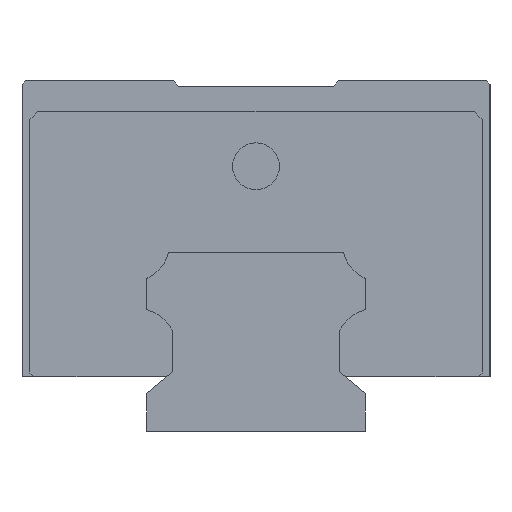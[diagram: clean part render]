
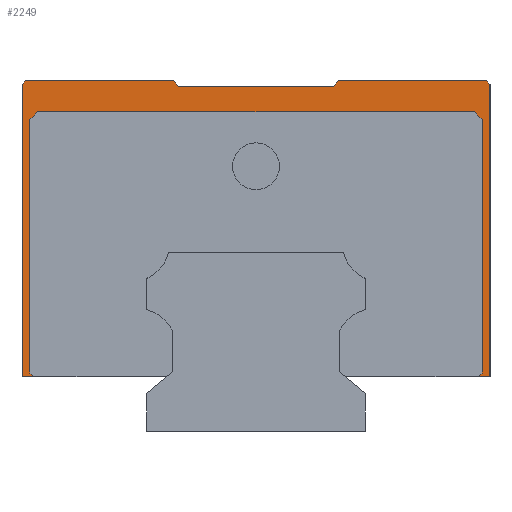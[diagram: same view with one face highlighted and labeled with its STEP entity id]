
A CAD part, left-side view. The second image highlights one B-rep face of the part: STEP entity #2249.
In plain terms, the highlighted planar face has unit normal (-1, 0, 0).
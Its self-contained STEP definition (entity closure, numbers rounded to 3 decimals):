
#4 = VECTOR ( 'NONE', #5761, 1000. ) ;
#59 = CARTESIAN_POINT ( 'NONE',  ( -52.5, -10.629, 45. ) ) ;
#129 = VECTOR ( 'NONE', #2593, 1000. ) ;
#165 = EDGE_CURVE ( 'NONE', #5274, #3348, #1384, .T. ) ;
#212 = CARTESIAN_POINT ( 'NONE',  ( -52.5, -29., 7.5 ) ) ;
#321 = DIRECTION ( 'NONE',  ( 0., 0.707, 0.707 ) ) ;
#397 = EDGE_CURVE ( 'NONE', #4996, #1627, #2617, .T. ) ;
#398 = DIRECTION ( 'NONE',  ( 0., 0.707, -0.707 ) ) ;
#468 = CARTESIAN_POINT ( 'NONE',  ( -52.5, -28., 41. ) ) ;
#476 = ORIENTED_EDGE ( 'NONE', *, *, #2155, .T. ) ;
#493 = LINE ( 'NONE', #5309, #4370 ) ;
#537 = EDGE_CURVE ( 'NONE', #3582, #1275, #4919, .T. ) ;
#638 = LINE ( 'NONE', #5567, #1950 ) ;
#639 = CARTESIAN_POINT ( 'NONE',  ( -52.5, -29., 40. ) ) ;
#748 = ORIENTED_EDGE ( 'NONE', *, *, #5253, .F. ) ;
#763 = VECTOR ( 'NONE', #3172, 1000. ) ;
#813 = EDGE_CURVE ( 'NONE', #4191, #3672, #1843, .T. ) ;
#815 = CARTESIAN_POINT ( 'NONE',  ( -52.5, -30., 44.5 ) ) ;
#854 = DIRECTION ( 'NONE',  ( 0., 1., 0. ) ) ;
#884 = EDGE_CURVE ( 'NONE', #1485, #4996, #2687, .T. ) ;
#894 = ORIENTED_EDGE ( 'NONE', *, *, #1761, .F. ) ;
#979 = CARTESIAN_POINT ( 'NONE',  ( -52.5, 10.629, 45. ) ) ;
#984 = EDGE_CURVE ( 'NONE', #3348, #4013, #4551, .T. ) ;
#997 = DIRECTION ( 'NONE',  ( 0., 0.643, -0.766 ) ) ;
#1160 = EDGE_CURVE ( 'NONE', #5090, #4617, #3426, .T. ) ;
#1182 = LINE ( 'NONE', #2968, #129 ) ;
#1248 = VECTOR ( 'NONE', #2237, 1000. ) ;
#1275 = VERTEX_POINT ( 'NONE', #4814 ) ;
#1317 = ORIENTED_EDGE ( 'NONE', *, *, #813, .T. ) ;
#1384 = LINE ( 'NONE', #3166, #2475 ) ;
#1419 = DIRECTION ( 'NONE',  ( 0., -0.707, -0.707 ) ) ;
#1422 = CARTESIAN_POINT ( 'NONE',  ( -52.5, -10.629, 45. ) ) ;
#1450 = VECTOR ( 'NONE', #2585, 1000. ) ;
#1484 = ORIENTED_EDGE ( 'NONE', *, *, #4854, .T. ) ;
#1485 = VERTEX_POINT ( 'NONE', #2817 ) ;
#1544 = DIRECTION ( 'NONE',  ( 0., 0.707, -0.707 ) ) ;
#1627 = VERTEX_POINT ( 'NONE', #3861 ) ;
#1683 = LINE ( 'NONE', #4302, #4502 ) ;
#1704 = LINE ( 'NONE', #815, #1450 ) ;
#1761 = EDGE_CURVE ( 'NONE', #5090, #4880, #1796, .T. ) ;
#1770 = CARTESIAN_POINT ( 'NONE',  ( -52.5, -30., 7. ) ) ;
#1776 = CARTESIAN_POINT ( 'NONE',  ( -52.5, -30., 7. ) ) ;
#1784 = CARTESIAN_POINT ( 'NONE',  ( -52.5, -30., 45. ) ) ;
#1796 = LINE ( 'NONE', #3558, #3333 ) ;
#1817 = DIRECTION ( 'NONE',  ( 0., 1., 0. ) ) ;
#1843 = LINE ( 'NONE', #4459, #3850 ) ;
#1950 = VECTOR ( 'NONE', #2440, 1000. ) ;
#1996 = CARTESIAN_POINT ( 'NONE',  ( -52.5, 28.5, 7. ) ) ;
#2002 = VECTOR ( 'NONE', #1544, 1000. ) ;
#2043 = CARTESIAN_POINT ( 'NONE',  ( -52.5, 28.5, 7. ) ) ;
#2078 = ORIENTED_EDGE ( 'NONE', *, *, #1160, .T. ) ;
#2120 = ORIENTED_EDGE ( 'NONE', *, *, #884, .F. ) ;
#2155 = EDGE_CURVE ( 'NONE', #4617, #5294, #4002, .T. ) ;
#2237 = DIRECTION ( 'NONE',  ( 0., 1., 0. ) ) ;
#2249 = ADVANCED_FACE ( 'NONE', ( #2374 ), #3179, .F. ) ;
#2346 = CARTESIAN_POINT ( 'NONE',  ( -52.5, -28., 41. ) ) ;
#2353 = VERTEX_POINT ( 'NONE', #212 ) ;
#2374 = FACE_OUTER_BOUND ( 'NONE', #2885, .T. ) ;
#2375 = ORIENTED_EDGE ( 'NONE', *, *, #5258, .T. ) ;
#2418 = CARTESIAN_POINT ( 'NONE',  ( -52.5, 29.5, 45. ) ) ;
#2440 = DIRECTION ( 'NONE',  ( 0., 0., -1. ) ) ;
#2475 = VECTOR ( 'NONE', #4957, 1000. ) ;
#2564 = VECTOR ( 'NONE', #398, 1000. ) ;
#2576 = ORIENTED_EDGE ( 'NONE', *, *, #537, .T. ) ;
#2585 = DIRECTION ( 'NONE',  ( 0., 0.707, 0.707 ) ) ;
#2593 = DIRECTION ( 'NONE',  ( 0., -0.707, 0.707 ) ) ;
#2605 = CARTESIAN_POINT ( 'NONE',  ( -52.5, 29., 7.5 ) ) ;
#2611 = EDGE_CURVE ( 'NONE', #3026, #4295, #493, .T. ) ;
#2617 = LINE ( 'NONE', #1770, #1248 ) ;
#2628 = ORIENTED_EDGE ( 'NONE', *, *, #397, .F. ) ;
#2664 = EDGE_CURVE ( 'NONE', #4013, #2353, #638, .T. ) ;
#2669 = CARTESIAN_POINT ( 'NONE',  ( -52.5, -29.5, 45. ) ) ;
#2687 = LINE ( 'NONE', #1784, #763 ) ;
#2695 = CARTESIAN_POINT ( 'NONE',  ( -52.5, -30., 45. ) ) ;
#2697 = VECTOR ( 'NONE', #321, 1000. ) ;
#2747 = ORIENTED_EDGE ( 'NONE', *, *, #984, .T. ) ;
#2817 = CARTESIAN_POINT ( 'NONE',  ( -52.5, -30., 44.5 ) ) ;
#2885 = EDGE_LOOP ( 'NONE', ( #894, #2078, #476, #1484, #4694, #2747, #4757, #3216, #2628, #2120, #2375, #5729, #3375, #1317, #2918, #4969, #2576, #748 ) ) ;
#2918 = ORIENTED_EDGE ( 'NONE', *, *, #3697, .T. ) ;
#2968 = CARTESIAN_POINT ( 'NONE',  ( -52.5, 29., 40. ) ) ;
#3026 = VERTEX_POINT ( 'NONE', #1422 ) ;
#3051 = CARTESIAN_POINT ( 'NONE',  ( -52.5, 10., 44.25 ) ) ;
#3064 = VECTOR ( 'NONE', #1419, 1000. ) ;
#3092 = CARTESIAN_POINT ( 'NONE',  ( -52.5, -29., 7.5 ) ) ;
#3162 = DIRECTION ( 'NONE',  ( 0., -1., 0. ) ) ;
#3166 = CARTESIAN_POINT ( 'NONE',  ( -52.5, 28., 41. ) ) ;
#3172 = DIRECTION ( 'NONE',  ( 0., 0., -1. ) ) ;
#3179 = PLANE ( 'NONE',  #5698 ) ;
#3216 = ORIENTED_EDGE ( 'NONE', *, *, #4247, .T. ) ;
#3321 = CARTESIAN_POINT ( 'NONE',  ( -52.5, 29.5, 45. ) ) ;
#3333 = VECTOR ( 'NONE', #5359, 1000. ) ;
#3348 = VERTEX_POINT ( 'NONE', #468 ) ;
#3360 = CARTESIAN_POINT ( 'NONE',  ( -52.5, -10., 44.25 ) ) ;
#3375 = ORIENTED_EDGE ( 'NONE', *, *, #3454, .T. ) ;
#3426 = LINE ( 'NONE', #2043, #2697 ) ;
#3454 = EDGE_CURVE ( 'NONE', #3026, #4191, #5017, .T. ) ;
#3558 = CARTESIAN_POINT ( 'NONE',  ( -52.5, 11.769, 7. ) ) ;
#3582 = VERTEX_POINT ( 'NONE', #2418 ) ;
#3672 = VERTEX_POINT ( 'NONE', #5248 ) ;
#3697 = EDGE_CURVE ( 'NONE', #3672, #4816, #4337, .T. ) ;
#3738 = EDGE_CURVE ( 'NONE', #3582, #4816, #1683, .T. ) ;
#3850 = VECTOR ( 'NONE', #854, 1000. ) ;
#3861 = CARTESIAN_POINT ( 'NONE',  ( -52.5, -28.5, 7. ) ) ;
#3886 = CARTESIAN_POINT ( 'NONE',  ( -52.5, 29., 40. ) ) ;
#4002 = LINE ( 'NONE', #5327, #4462 ) ;
#4013 = VERTEX_POINT ( 'NONE', #639 ) ;
#4191 = VERTEX_POINT ( 'NONE', #3360 ) ;
#4247 = EDGE_CURVE ( 'NONE', #2353, #1627, #5303, .T. ) ;
#4295 = VERTEX_POINT ( 'NONE', #2669 ) ;
#4297 = DIRECTION ( 'NONE',  ( 0., 0., 1. ) ) ;
#4302 = CARTESIAN_POINT ( 'NONE',  ( -52.5, 30., 45. ) ) ;
#4337 = LINE ( 'NONE', #3051, #4 ) ;
#4358 = CARTESIAN_POINT ( 'NONE',  ( -52.5, 28., 41. ) ) ;
#4370 = VECTOR ( 'NONE', #3162, 1000. ) ;
#4459 = CARTESIAN_POINT ( 'NONE',  ( -52.5, -10., 44.25 ) ) ;
#4462 = VECTOR ( 'NONE', #5266, 1000. ) ;
#4502 = VECTOR ( 'NONE', #5638, 1000. ) ;
#4551 = LINE ( 'NONE', #2346, #3064 ) ;
#4617 = VERTEX_POINT ( 'NONE', #2605 ) ;
#4694 = ORIENTED_EDGE ( 'NONE', *, *, #165, .T. ) ;
#4757 = ORIENTED_EDGE ( 'NONE', *, *, #2664, .T. ) ;
#4814 = CARTESIAN_POINT ( 'NONE',  ( -52.5, 30., 44.5 ) ) ;
#4816 = VERTEX_POINT ( 'NONE', #979 ) ;
#4854 = EDGE_CURVE ( 'NONE', #5294, #5274, #1182, .T. ) ;
#4880 = VERTEX_POINT ( 'NONE', #5672 ) ;
#4885 = VECTOR ( 'NONE', #997, 1000. ) ;
#4919 = LINE ( 'NONE', #3321, #2002 ) ;
#4957 = DIRECTION ( 'NONE',  ( 0., -1., 0. ) ) ;
#4969 = ORIENTED_EDGE ( 'NONE', *, *, #3738, .F. ) ;
#4996 = VERTEX_POINT ( 'NONE', #1776 ) ;
#5017 = LINE ( 'NONE', #59, #4885 ) ;
#5090 = VERTEX_POINT ( 'NONE', #1996 ) ;
#5248 = CARTESIAN_POINT ( 'NONE',  ( -52.5, 10., 44.25 ) ) ;
#5253 = EDGE_CURVE ( 'NONE', #4880, #1275, #5632, .T. ) ;
#5258 = EDGE_CURVE ( 'NONE', #1485, #4295, #1704, .T. ) ;
#5266 = DIRECTION ( 'NONE',  ( 0., 0., 1. ) ) ;
#5274 = VERTEX_POINT ( 'NONE', #4358 ) ;
#5294 = VERTEX_POINT ( 'NONE', #3886 ) ;
#5303 = LINE ( 'NONE', #3092, #2564 ) ;
#5309 = CARTESIAN_POINT ( 'NONE',  ( -52.5, 30., 45. ) ) ;
#5327 = CARTESIAN_POINT ( 'NONE',  ( -52.5, 29., 7.5 ) ) ;
#5359 = DIRECTION ( 'NONE',  ( 0., 1., 0. ) ) ;
#5443 = DIRECTION ( 'NONE',  ( 1., 0., 0. ) ) ;
#5479 = VECTOR ( 'NONE', #4297, 1000. ) ;
#5567 = CARTESIAN_POINT ( 'NONE',  ( -52.5, -29., 40. ) ) ;
#5632 = LINE ( 'NONE', #5718, #5479 ) ;
#5638 = DIRECTION ( 'NONE',  ( 0., -1., 0. ) ) ;
#5672 = CARTESIAN_POINT ( 'NONE',  ( -52.5, 30., 7. ) ) ;
#5698 = AXIS2_PLACEMENT_3D ( 'NONE', #2695, #5443, #1817 ) ;
#5718 = CARTESIAN_POINT ( 'NONE',  ( -52.5, 30., 7. ) ) ;
#5729 = ORIENTED_EDGE ( 'NONE', *, *, #2611, .F. ) ;
#5761 = DIRECTION ( 'NONE',  ( 0., 0.643, 0.766 ) ) ;
